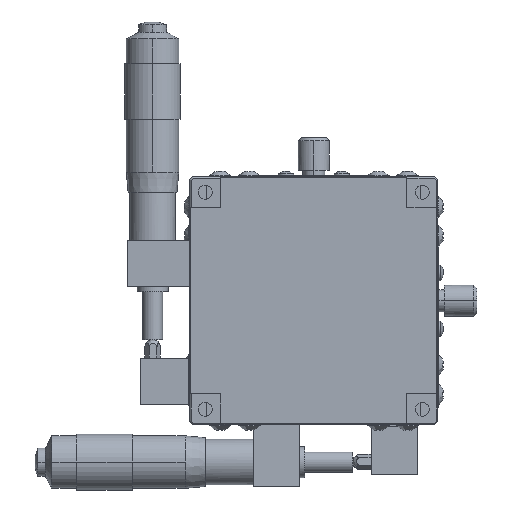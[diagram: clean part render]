
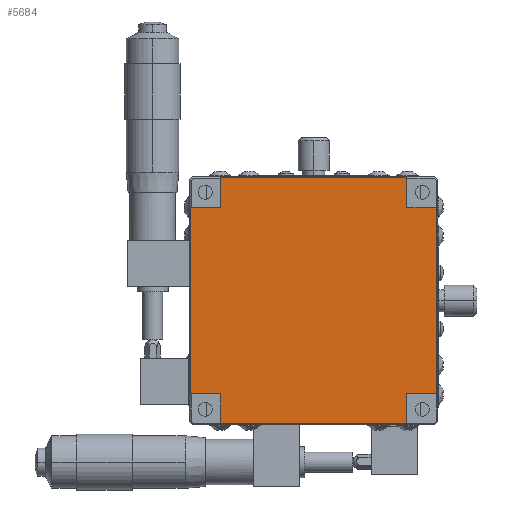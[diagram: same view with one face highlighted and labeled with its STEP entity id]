
A CAD part, front view. The second image highlights one B-rep face of the part: STEP entity #5684.
In plain terms, the highlighted planar face has unit normal (0, -1, 0).
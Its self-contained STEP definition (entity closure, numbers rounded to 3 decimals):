
#1243 = EDGE_CURVE ( 'NONE', #32059, #2034, #22763, .T. ) ;
#1265 = ORIENTED_EDGE ( 'NONE', *, *, #32187, .T. ) ;
#1266 = DIRECTION ( 'NONE',  ( 1., 0., 0. ) ) ;
#1292 = CARTESIAN_POINT ( 'NONE',  ( -5.803, 5.206, 24.412 ) ) ;
#1359 = EDGE_CURVE ( 'NONE', #30746, #2287, #1655, .T. ) ;
#1456 = CARTESIAN_POINT ( 'NONE',  ( -15.503, 5.206, 24.412 ) ) ;
#1655 = LINE ( 'NONE', #28026, #35531 ) ;
#1842 = CARTESIAN_POINT ( 'NONE',  ( -75.503, 5.206, 15.604 ) ) ;
#2034 = VERTEX_POINT ( 'NONE', #30810 ) ;
#2287 = VERTEX_POINT ( 'NONE', #14107 ) ;
#2315 = EDGE_CURVE ( 'NONE', #2287, #23230, #19634, .T. ) ;
#2536 = VERTEX_POINT ( 'NONE', #24963 ) ;
#2561 = DIRECTION ( 'NONE',  ( 1., 0., 0. ) ) ;
#2877 = EDGE_CURVE ( 'NONE', #2536, #29013, #11217, .T. ) ;
#3297 = ORIENTED_EDGE ( 'NONE', *, *, #10384, .T. ) ;
#4675 = CARTESIAN_POINT ( 'NONE',  ( -85.203, 5.206, 24.412 ) ) ;
#5099 = CARTESIAN_POINT ( 'NONE',  ( -75.503, 5.206, 5.904 ) ) ;
#5422 = ORIENTED_EDGE ( 'NONE', *, *, #34330, .T. ) ;
#5684 = ADVANCED_FACE ( 'NONE', ( #26550 ), #24018, .T. ) ;
#6696 = DIRECTION ( 'NONE',  ( 0., 0., -1. ) ) ;
#7275 = ORIENTED_EDGE ( 'NONE', *, *, #10513, .T. ) ;
#7499 = VERTEX_POINT ( 'NONE', #5099 ) ;
#8294 = CARTESIAN_POINT ( 'NONE',  ( -75.503, 5.206, -54.096 ) ) ;
#8469 = CARTESIAN_POINT ( 'NONE',  ( -85.203, 5.206, 5.904 ) ) ;
#8578 = VECTOR ( 'NONE', #11355, 1000. ) ;
#9011 = VECTOR ( 'NONE', #6696, 1000. ) ;
#9171 = CARTESIAN_POINT ( 'NONE',  ( -15.503, 5.206, -54.096 ) ) ;
#9213 = ORIENTED_EDGE ( 'NONE', *, *, #2315, .T. ) ;
#9413 = CARTESIAN_POINT ( 'NONE',  ( -15.503, 5.206, -63.796 ) ) ;
#9609 = CARTESIAN_POINT ( 'NONE',  ( -75.503, 5.206, -63.796 ) ) ;
#9905 = VECTOR ( 'NONE', #28460, 1000. ) ;
#10384 = EDGE_CURVE ( 'NONE', #23230, #30136, #19147, .T. ) ;
#10513 = EDGE_CURVE ( 'NONE', #30136, #7499, #23977, .T. ) ;
#10791 = CARTESIAN_POINT ( 'NONE',  ( -15.503, 5.206, 15.604 ) ) ;
#11217 = LINE ( 'NONE', #20744, #9011 ) ;
#11355 = DIRECTION ( 'NONE',  ( 0., 0., -1. ) ) ;
#11593 = EDGE_LOOP ( 'NONE', ( #5422, #1265, #23457, #23694, #9213, #3297, #7275, #26578, #34657, #16081, #21138, #32005 ) ) ;
#12139 = EDGE_CURVE ( 'NONE', #2034, #2536, #33185, .T. ) ;
#13020 = VECTOR ( 'NONE', #26511, 1000. ) ;
#13822 = LINE ( 'NONE', #1456, #22614 ) ;
#14107 = CARTESIAN_POINT ( 'NONE',  ( -15.503, 5.206, 5.904 ) ) ;
#15844 = CARTESIAN_POINT ( 'NONE',  ( -75.503, 5.206, -54.096 ) ) ;
#16081 = ORIENTED_EDGE ( 'NONE', *, *, #12139, .T. ) ;
#16128 = EDGE_CURVE ( 'NONE', #27556, #30746, #24136, .T. ) ;
#16191 = VECTOR ( 'NONE', #35676, 1000. ) ;
#16440 = VERTEX_POINT ( 'NONE', #9171 ) ;
#17032 = DIRECTION ( 'NONE',  ( -1., 0., 0. ) ) ;
#17510 = LINE ( 'NONE', #34889, #13020 ) ;
#17858 = VERTEX_POINT ( 'NONE', #9413 ) ;
#18155 = CARTESIAN_POINT ( 'NONE',  ( -75.503, 5.206, 15.604 ) ) ;
#18556 = DIRECTION ( 'NONE',  ( 0., 0., 1. ) ) ;
#18837 = EDGE_CURVE ( 'NONE', #7499, #32059, #17510, .T. ) ;
#19033 = EDGE_CURVE ( 'NONE', #29013, #17858, #32083, .T. ) ;
#19147 = LINE ( 'NONE', #1842, #27479 ) ;
#19634 = LINE ( 'NONE', #22581, #9905 ) ;
#19722 = VECTOR ( 'NONE', #31951, 1000. ) ;
#20744 = CARTESIAN_POINT ( 'NONE',  ( -75.503, 5.206, 24.412 ) ) ;
#20798 = DIRECTION ( 'NONE',  ( 0., -1., 0. ) ) ;
#21138 = ORIENTED_EDGE ( 'NONE', *, *, #2877, .T. ) ;
#21531 = DIRECTION ( 'NONE',  ( -1., 0., 0. ) ) ;
#22465 = CARTESIAN_POINT ( 'NONE',  ( -75.503, 5.206, -63.796 ) ) ;
#22581 = CARTESIAN_POINT ( 'NONE',  ( -15.503, 5.206, 24.412 ) ) ;
#22614 = VECTOR ( 'NONE', #18556, 1000. ) ;
#22704 = CARTESIAN_POINT ( 'NONE',  ( -75.503, 5.206, 24.412 ) ) ;
#22763 = LINE ( 'NONE', #4675, #16191 ) ;
#23230 = VERTEX_POINT ( 'NONE', #10791 ) ;
#23457 = ORIENTED_EDGE ( 'NONE', *, *, #16128, .T. ) ;
#23694 = ORIENTED_EDGE ( 'NONE', *, *, #1359, .T. ) ;
#23977 = LINE ( 'NONE', #22704, #8578 ) ;
#24018 = PLANE ( 'NONE',  #32416 ) ;
#24136 = LINE ( 'NONE', #1292, #19722 ) ;
#24963 = CARTESIAN_POINT ( 'NONE',  ( -75.503, 5.206, -54.096 ) ) ;
#25669 = VECTOR ( 'NONE', #1266, 1000. ) ;
#26511 = DIRECTION ( 'NONE',  ( -1., 0., 0. ) ) ;
#26550 = FACE_OUTER_BOUND ( 'NONE', #11593, .T. ) ;
#26578 = ORIENTED_EDGE ( 'NONE', *, *, #18837, .T. ) ;
#27479 = VECTOR ( 'NONE', #21531, 1000. ) ;
#27556 = VERTEX_POINT ( 'NONE', #30308 ) ;
#27613 = DIRECTION ( 'NONE',  ( 1., 0., 0. ) ) ;
#28026 = CARTESIAN_POINT ( 'NONE',  ( -75.503, 5.206, 5.904 ) ) ;
#28460 = DIRECTION ( 'NONE',  ( 0., 0., 1. ) ) ;
#29013 = VERTEX_POINT ( 'NONE', #9609 ) ;
#29396 = VECTOR ( 'NONE', #27613, 1000. ) ;
#30136 = VERTEX_POINT ( 'NONE', #18155 ) ;
#30254 = VECTOR ( 'NONE', #2561, 1000. ) ;
#30308 = CARTESIAN_POINT ( 'NONE',  ( -5.803, 5.206, -54.096 ) ) ;
#30746 = VERTEX_POINT ( 'NONE', #34201 ) ;
#30810 = CARTESIAN_POINT ( 'NONE',  ( -85.203, 5.206, -54.096 ) ) ;
#31951 = DIRECTION ( 'NONE',  ( 0., 0., 1. ) ) ;
#32005 = ORIENTED_EDGE ( 'NONE', *, *, #19033, .T. ) ;
#32059 = VERTEX_POINT ( 'NONE', #8469 ) ;
#32083 = LINE ( 'NONE', #22465, #29396 ) ;
#32187 = EDGE_CURVE ( 'NONE', #16440, #27556, #32921, .T. ) ;
#32403 = DIRECTION ( 'NONE',  ( 0., 0., -1. ) ) ;
#32416 = AXIS2_PLACEMENT_3D ( 'NONE', #34823, #20798, #32403 ) ;
#32921 = LINE ( 'NONE', #15844, #30254 ) ;
#33185 = LINE ( 'NONE', #8294, #25669 ) ;
#34201 = CARTESIAN_POINT ( 'NONE',  ( -5.803, 5.206, 5.904 ) ) ;
#34330 = EDGE_CURVE ( 'NONE', #17858, #16440, #13822, .T. ) ;
#34657 = ORIENTED_EDGE ( 'NONE', *, *, #1243, .T. ) ;
#34823 = CARTESIAN_POINT ( 'NONE',  ( -75.503, 5.206, 24.412 ) ) ;
#34889 = CARTESIAN_POINT ( 'NONE',  ( -75.503, 5.206, 5.904 ) ) ;
#35531 = VECTOR ( 'NONE', #17032, 1000. ) ;
#35676 = DIRECTION ( 'NONE',  ( 0., 0., -1. ) ) ;
